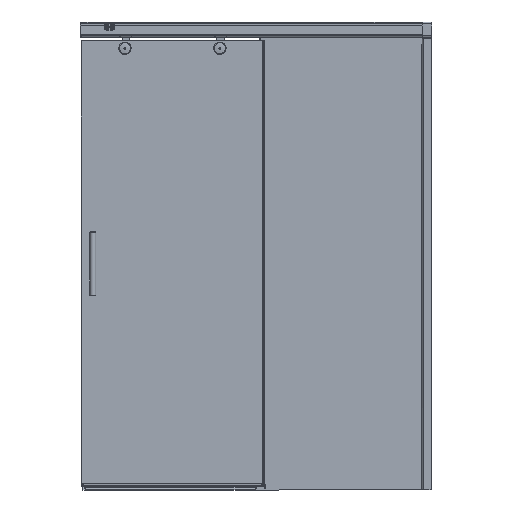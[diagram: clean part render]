
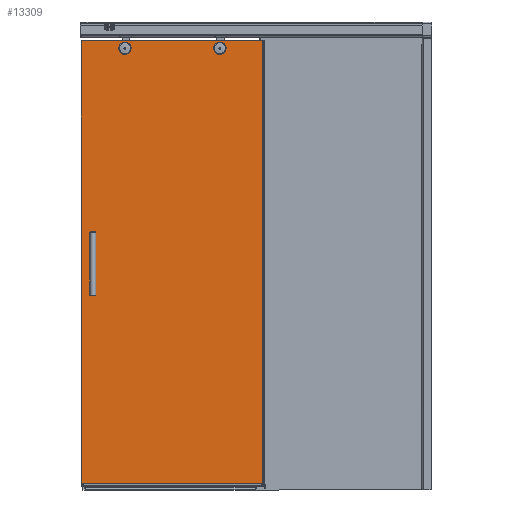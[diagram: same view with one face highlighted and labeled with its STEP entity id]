
A CAD part, left-side view. The second image highlights one B-rep face of the part: STEP entity #13309.
In plain terms, the highlighted planar face has unit normal (-1, 0, 0).
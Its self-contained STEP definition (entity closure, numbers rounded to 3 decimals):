
#429=LINE($,#20524,#1673);
#494=LINE($,#20929,#1738);
#495=LINE($,#20931,#1739);
#496=LINE($,#20932,#1740);
#1673=VECTOR($,#16245,620.);
#1738=VECTOR($,#16456,1514.4);
#1739=VECTOR($,#16457,620.);
#1740=VECTOR($,#16458,1514.4);
#2802=PLANE($,#14308);
#3177=FACE_BOUND($,#4242,.T.);
#3178=FACE_BOUND($,#4243,.T.);
#3179=FACE_BOUND($,#4244,.T.);
#3180=FACE_BOUND($,#4245,.T.);
#3181=FACE_BOUND($,#4246,.T.);
#4242=EDGE_LOOP($,(#9476));
#4243=EDGE_LOOP($,(#9477));
#4244=EDGE_LOOP($,(#9478));
#4245=EDGE_LOOP($,(#9479));
#4246=EDGE_LOOP($,(#9480,#9481,#9482,#9483));
#4821=CIRCLE($,#13865,18.5);
#4847=CIRCLE($,#13916,18.5);
#5024=CIRCLE($,#14309,10.);
#5025=CIRCLE($,#14310,10.);
#5342=VERTEX_POINT($,#19191);
#5383=VERTEX_POINT($,#19481);
#5691=VERTEX_POINT($,#20521);
#5692=VERTEX_POINT($,#20523);
#5775=VERTEX_POINT($,#20924);
#5776=VERTEX_POINT($,#20926);
#5777=VERTEX_POINT($,#20928);
#5778=VERTEX_POINT($,#20930);
#6546=EDGE_CURVE($,#5342,#5342,#4821,.T.);
#6602=EDGE_CURVE($,#5383,#5383,#4847,.T.);
#7045=EDGE_CURVE($,#5691,#5692,#429,.T.);
#7166=EDGE_CURVE($,#5775,#5775,#5024,.T.);
#7167=EDGE_CURVE($,#5776,#5776,#5025,.T.);
#7168=EDGE_CURVE($,#5691,#5777,#494,.T.);
#7169=EDGE_CURVE($,#5778,#5777,#495,.T.);
#7170=EDGE_CURVE($,#5692,#5778,#496,.T.);
#9476=ORIENTED_EDGE($,*,*,#6546,.T.);
#9477=ORIENTED_EDGE($,*,*,#6602,.T.);
#9478=ORIENTED_EDGE($,*,*,#7166,.T.);
#9479=ORIENTED_EDGE($,*,*,#7167,.T.);
#9480=ORIENTED_EDGE($,*,*,#7045,.F.);
#9481=ORIENTED_EDGE($,*,*,#7168,.T.);
#9482=ORIENTED_EDGE($,*,*,#7169,.F.);
#9483=ORIENTED_EDGE($,*,*,#7170,.F.);
#13309=ADVANCED_FACE($,(#3177,#3178,#3179,#3180,#3181),#2802,.T.);
#13865=AXIS2_PLACEMENT_3D($,#19192,#15215,#15216);
#13916=AXIS2_PLACEMENT_3D($,#19482,#15337,#15338);
#14308=AXIS2_PLACEMENT_3D($,#20923,#16450,#16451);
#14309=AXIS2_PLACEMENT_3D($,#20925,#16452,#16453);
#14310=AXIS2_PLACEMENT_3D($,#20927,#16454,#16455);
#15215=DIRECTION('center_axis',(1.,0.,0.));
#15216=DIRECTION('ref_axis',(0.,0.899,-0.437));
#15337=DIRECTION('center_axis',(1.,0.,0.));
#15338=DIRECTION('ref_axis',(0.,0.899,-0.437));
#16245=DIRECTION($,(0.,1.,0.));
#16450=DIRECTION('center_axis',(-1.,0.,0.));
#16451=DIRECTION('ref_axis',(0.,-1.,0.));
#16452=DIRECTION('center_axis',(1.,0.,0.));
#16453=DIRECTION('ref_axis',(0.,0.,
1.));
#16454=DIRECTION('center_axis',(1.,0.,0.));
#16455=DIRECTION('ref_axis',(0.,0.,
1.));
#16456=DIRECTION($,(0.,0.,1.));
#16457=DIRECTION($,(0.,-1.,0.));
#16458=DIRECTION($,(0.,0.,1.));
#19191=CARTESIAN_POINT('',(1764.286,616.564,2069.892));
#19192=CARTESIAN_POINT('Origin',(1764.286,633.2,2061.8));
#19481=CARTESIAN_POINT('',(1764.286,291.564,2069.892));
#19482=CARTESIAN_POINT('Origin',(1764.286,308.2,2061.8));
#20521=CARTESIAN_POINT('',(1764.286,163.2,572.4));
#20523=CARTESIAN_POINT('',(1764.286,783.2,572.4));
#20524=CARTESIAN_POINT($,(1764.286,158.2,572.4));
#20923=CARTESIAN_POINT('Origin',(1764.286,783.2,561.8));
#20924=CARTESIAN_POINT('',(1764.286,743.2,1234.3));
#20925=CARTESIAN_POINT('Origin',(1764.286,743.2,1244.3));
#20926=CARTESIAN_POINT('',(1764.286,743.2,1394.3));
#20927=CARTESIAN_POINT('Origin',(1764.286,743.2,1404.3));
#20928=CARTESIAN_POINT('',(1764.286,163.2,2086.8));
#20929=CARTESIAN_POINT($,(1764.286,163.2,1324.3));
#20930=CARTESIAN_POINT('',(1764.286,783.2,2086.8));
#20931=CARTESIAN_POINT($,(1764.286,783.2,2086.8));
#20932=CARTESIAN_POINT($,(1764.286,783.2,561.8));
